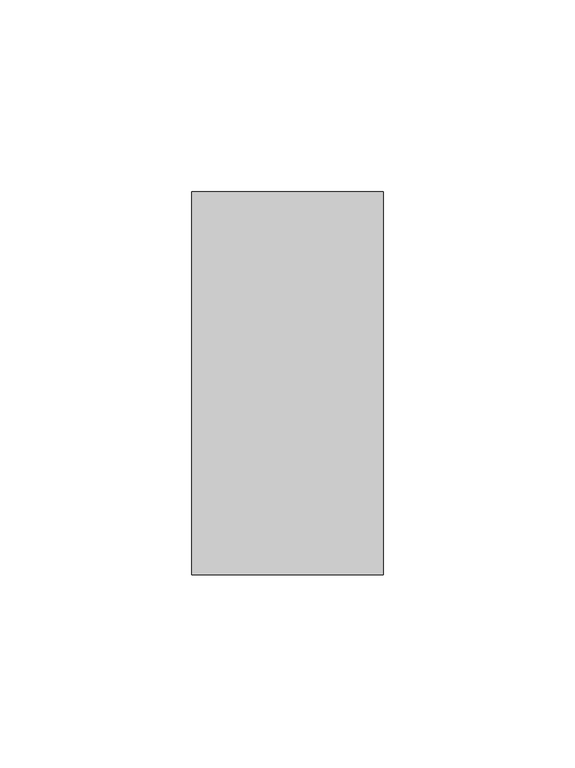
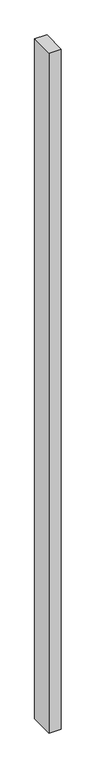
"""IFC4 building model written with IfcOpenShell, lengths in millimetres: member geometry, Прямоугольный импост : 50х100."""

from ifc_helpers import new_model, si_unit, frame, origin, place, context, project, spatial, polyline, outline, extrude, source, transform, mapped, element, save


def member_2f80f005(model_context):
    return source(origin(), model_context, "Body", "SweptSolid", [
        extrude(outline(polyline([(25.0, 50.0), (25.0, -50.0), (-25.0, -50.0), (-25.0, 50.0), (25.0, 50.0)])), frame((0.0, 0.0, -2925.0), z_axis=(0.0, 0.0, 1.0), x_axis=(1.0, 0.0, 0.0)), (0.0, 0.0, 1.0), 2925.0),
    ])


if __name__ == "__main__":
    model = new_model("IFC4")
    model_context = context("Model", 3, world=origin())
    ifc_project = project(units=[si_unit("LENGTHUNIT", "METRE", prefix="MILLI")], contexts=[model_context])
    site = spatial("IfcSite", under=ifc_project)
    building = spatial("IfcBuilding", under=site)
    placement = place(None, origin())
    member_shape = member_2f80f005(model_context)
    element("IfcMember", 1, ObjectType="Прямоугольный импост : 50х100", at=placement, inside=building, context=model_context, shape_type="MappedRepresentation", body=[
        mapped(member_shape, transform((0.0, 0.0, 0.0), x_axis=(1.0, 0.0, 0.0), y_axis=(0.0, 1.0, 0.0), z_axis=(0.0, 0.0, 1.0))),
    ])
    save(model, "model.ifc")
